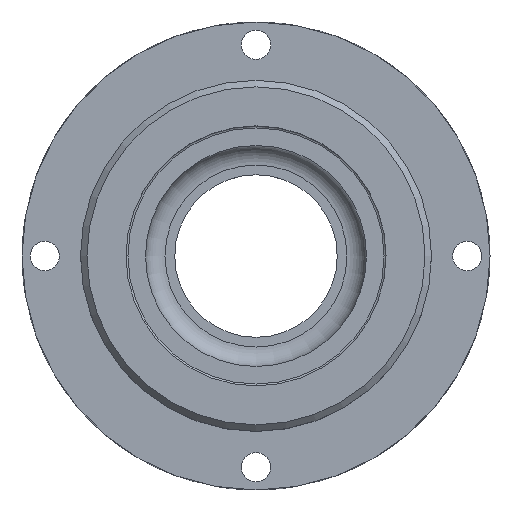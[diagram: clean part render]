
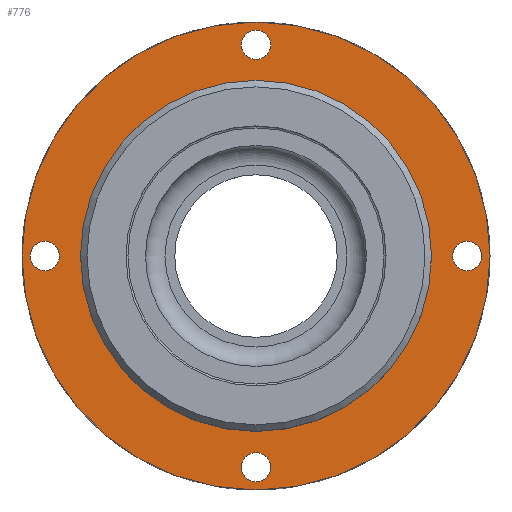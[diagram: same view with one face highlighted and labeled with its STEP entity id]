
A CAD part, top view. The second image highlights one B-rep face of the part: STEP entity #776.
In plain terms, the highlighted planar face has unit normal (0, 0, 1).
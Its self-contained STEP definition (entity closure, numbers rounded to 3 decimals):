
#26=FACE_BOUND('',#234,.T.);
#27=FACE_BOUND('',#235,.T.);
#28=FACE_BOUND('',#236,.T.);
#29=FACE_BOUND('',#237,.T.);
#30=FACE_BOUND('',#238,.T.);
#82=CIRCLE('',#813,36.);
#99=CIRCLE('',#838,2.25);
#102=CIRCLE('',#844,2.25);
#105=CIRCLE('',#850,2.25);
#108=CIRCLE('',#856,2.25);
#116=CIRCLE('',#869,27.);
#180=FACE_OUTER_BOUND('',#233,.T.);
#233=EDGE_LOOP('',(#709));
#234=EDGE_LOOP('',(#710));
#235=EDGE_LOOP('',(#711));
#236=EDGE_LOOP('',(#712));
#237=EDGE_LOOP('',(#713));
#238=EDGE_LOOP('',(#714));
#367=VERTEX_POINT('',#1271);
#379=VERTEX_POINT('',#1327);
#381=VERTEX_POINT('',#1336);
#383=VERTEX_POINT('',#1345);
#385=VERTEX_POINT('',#1354);
#393=VERTEX_POINT('',#1379);
#438=EDGE_CURVE('',#367,#367,#82,.T.);
#466=EDGE_CURVE('',#379,#379,#99,.T.);
#470=EDGE_CURVE('',#381,#381,#102,.T.);
#474=EDGE_CURVE('',#383,#383,#105,.T.);
#478=EDGE_CURVE('',#385,#385,#108,.T.);
#490=EDGE_CURVE('',#393,#393,#116,.T.);
#709=ORIENTED_EDGE('',*,*,#438,.F.);
#710=ORIENTED_EDGE('',*,*,#466,.T.);
#711=ORIENTED_EDGE('',*,*,#470,.T.);
#712=ORIENTED_EDGE('',*,*,#474,.T.);
#713=ORIENTED_EDGE('',*,*,#478,.T.);
#714=ORIENTED_EDGE('',*,*,#490,.T.);
#733=PLANE('',#894);
#776=ADVANCED_FACE('',(#180,#26,#27,#28,#29,#30),#733,.F.);
#813=AXIS2_PLACEMENT_3D('',#1272,#947,#948);
#838=AXIS2_PLACEMENT_3D('',#1329,#1007,#1008);
#844=AXIS2_PLACEMENT_3D('',#1338,#1020,#1021);
#850=AXIS2_PLACEMENT_3D('',#1347,#1033,#1034);
#856=AXIS2_PLACEMENT_3D('',#1356,#1046,#1047);
#869=AXIS2_PLACEMENT_3D('',#1381,#1076,#1077);
#894=AXIS2_PLACEMENT_3D('',#1418,#1129,#1130);
#947=DIRECTION('center_axis',(0.,0.,-1.));
#948=DIRECTION('ref_axis',(-1.,0.,0.));
#1007=DIRECTION('center_axis',(0.,0.,-1.));
#1008=DIRECTION('ref_axis',(0.,1.,0.));
#1020=DIRECTION('center_axis',(0.,0.,-1.));
#1021=DIRECTION('ref_axis',(1.,0.,0.));
#1033=DIRECTION('center_axis',(0.,0.,-1.));
#1034=DIRECTION('ref_axis',(0.,-1.,0.));
#1046=DIRECTION('center_axis',(0.,0.,-1.));
#1047=DIRECTION('ref_axis',(-1.,0.,0.));
#1076=DIRECTION('center_axis',(0.,0.,-1.));
#1077=DIRECTION('ref_axis',(-1.,0.,0.));
#1129=DIRECTION('center_axis',(0.,0.,-1.));
#1130=DIRECTION('ref_axis',(-1.,0.,0.));
#1271=CARTESIAN_POINT('',(36.,0.,7.));
#1272=CARTESIAN_POINT('Origin',(0.,0.,7.));
#1327=CARTESIAN_POINT('',(0.,30.25,7.));
#1329=CARTESIAN_POINT('Origin',(0.,32.5,7.));
#1336=CARTESIAN_POINT('',(30.25,0.,7.));
#1338=CARTESIAN_POINT('Origin',(32.5,0.,7.));
#1345=CARTESIAN_POINT('',(0.,-30.25,7.));
#1347=CARTESIAN_POINT('Origin',(0.,-32.5,7.));
#1354=CARTESIAN_POINT('',(-30.25,0.,7.));
#1356=CARTESIAN_POINT('Origin',(-32.5,0.,7.));
#1379=CARTESIAN_POINT('',(27.,0.,7.));
#1381=CARTESIAN_POINT('Origin',(0.,0.,7.));
#1418=CARTESIAN_POINT('Origin',(0.,0.,7.));
